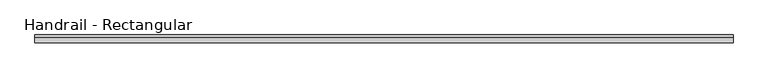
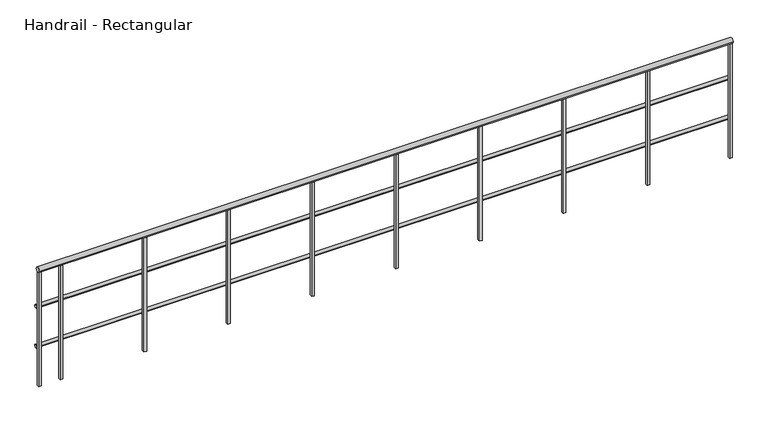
"""IFC4 building model written with IfcOpenShell, lengths in millimetres: railing geometry, Handrail - Rectangular."""

from ifc_helpers import new_model, si_unit, point, frame, frame_2d, origin, place, context, project, spatial, polyline, circle_curve, trimmed, segment, composite_curve, outline, extrude, source, transform, mapped, element, save


def handrail_rectangular_566bf06c(model_context):
    return source(origin(), model_context, "Body", "SweptSolid", [
        extrude(outline(composite_curve([segment(trimmed(circle_curve(frame_2d((11970.2316867, 9740.9)), 12.7), [point((11982.9316867, 9740.9))], [point((11957.5316867, 9740.9))], False, "CARTESIAN"), True, "CONTINUOUS"), segment(trimmed(circle_curve(frame_2d((11970.2316867, 9740.9)), 12.7), [point((11957.5316867, 9740.9))], [point((11982.9316867, 9740.9))], False, "CARTESIAN"), True, "CONTINUOUS")], self_intersect=False)), frame((-23747.3839563, 0.0, 0.0), z_axis=(1.0, 0.0, 0.0), x_axis=(0.0, 1.0, 0.0)), (0.0, 0.0, 1.0), 5041.9),
        extrude(outline(composite_curve([segment(trimmed(circle_curve(frame_2d((11970.2316867, 9436.1)), 12.7), [point((11982.9316867, 9436.1))], [point((11957.5316867, 9436.1))], False, "CARTESIAN"), True, "CONTINUOUS"), segment(trimmed(circle_curve(frame_2d((11970.2316867, 9436.1)), 12.7), [point((11957.5316867, 9436.1))], [point((11982.9316867, 9436.1))], False, "CARTESIAN"), True, "CONTINUOUS")], self_intersect=False)), frame((-23747.3839563, 0.0, 0.0), z_axis=(1.0, 0.0, 0.0), x_axis=(0.0, 1.0, 0.0)), (0.0, 0.0, 1.0), 5041.9),
        extrude(outline(composite_curve([segment(trimmed(circle_curve(frame_2d((11944.8316867, 10039.35)), 19.05), [point((11963.8816867, 10039.35))], [point((11925.7816867, 10039.35))], False, "CARTESIAN"), True, "CONTINUOUS"), segment(trimmed(circle_curve(frame_2d((11944.8316867, 10039.35)), 19.05), [point((11925.7816867, 10039.35))], [point((11963.8816867, 10039.35))], False, "CARTESIAN"), True, "CONTINUOUS")], self_intersect=False)), frame((-23747.3839563, 0.0, 0.0), z_axis=(1.0, 0.0, 0.0), x_axis=(0.0, 1.0, 0.0)), (0.0, 0.0, 1.0), 5041.9),
        extrude(outline(polyline([(-23572.7589563, 11935.3066867), (-23591.8089563, 11935.3066867), (-23591.8089563, 11954.3566867), (-23572.7589563, 11954.3566867), (-23572.7589563, 11935.3066867)])), frame((0.0, 0.0, 9144.0), z_axis=(0.0, 0.0, 1.0), x_axis=(1.0, 0.0, 0.0)), (0.0, 0.0, 1.0), 876.3),
        extrude(outline(polyline([(-22963.1589563, 11935.3066867), (-22982.2089563, 11935.3066867), (-22982.2089563, 11954.3566867), (-22963.1589563, 11954.3566867), (-22963.1589563, 11935.3066867)])), frame((0.0, 0.0, 9144.0), z_axis=(0.0, 0.0, 1.0), x_axis=(1.0, 0.0, 0.0)), (0.0, 0.0, 1.0), 876.3),
        extrude(outline(polyline([(-22353.5589563, 11935.3066867), (-22372.6089563, 11935.3066867), (-22372.6089563, 11954.3566867), (-22353.5589563, 11954.3566867), (-22353.5589563, 11935.3066867)])), frame((0.0, 0.0, 9144.0), z_axis=(0.0, 0.0, 1.0), x_axis=(1.0, 0.0, 0.0)), (0.0, 0.0, 1.0), 876.3),
        extrude(outline(polyline([(-21743.9589563, 11935.3066867), (-21763.0089563, 11935.3066867), (-21763.0089563, 11954.3566867), (-21743.9589563, 11954.3566867), (-21743.9589563, 11935.3066867)])), frame((0.0, 0.0, 9144.0), z_axis=(0.0, 0.0, 1.0), x_axis=(1.0, 0.0, 0.0)), (0.0, 0.0, 1.0), 876.3),
        extrude(outline(polyline([(-21134.3589563, 11935.3066867), (-21153.4089563, 11935.3066867), (-21153.4089563, 11954.3566867), (-21134.3589563, 11954.3566867), (-21134.3589563, 11935.3066867)])), frame((0.0, 0.0, 9144.0), z_axis=(0.0, 0.0, 1.0), x_axis=(1.0, 0.0, 0.0)), (0.0, 0.0, 1.0), 876.3),
        extrude(outline(polyline([(-20524.7589563, 11935.3066867), (-20543.8089563, 11935.3066867), (-20543.8089563, 11954.3566867), (-20524.7589563, 11954.3566867), (-20524.7589563, 11935.3066867)])), frame((0.0, 0.0, 9144.0), z_axis=(0.0, 0.0, 1.0), x_axis=(1.0, 0.0, 0.0)), (0.0, 0.0, 1.0), 876.3),
        extrude(outline(polyline([(-19915.1589563, 11935.3066867), (-19934.2089563, 11935.3066867), (-19934.2089563, 11954.3566867), (-19915.1589563, 11954.3566867), (-19915.1589563, 11935.3066867)])), frame((0.0, 0.0, 9144.0), z_axis=(0.0, 0.0, 1.0), x_axis=(1.0, 0.0, 0.0)), (0.0, 0.0, 1.0), 876.3),
        extrude(outline(polyline([(-19305.5589563, 11935.3066867), (-19324.6089563, 11935.3066867), (-19324.6089563, 11954.3566867), (-19305.5589563, 11954.3566867), (-19305.5589563, 11935.3066867)])), frame((0.0, 0.0, 9144.0), z_axis=(0.0, 0.0, 1.0), x_axis=(1.0, 0.0, 0.0)), (0.0, 0.0, 1.0), 876.3),
        extrude(outline(polyline([(-23728.3339563, 11935.3066867), (-23747.3839563, 11935.3066867), (-23747.3839563, 11954.3566867), (-23728.3339563, 11954.3566867), (-23728.3339563, 11935.3066867)])), frame((0.0, 0.0, 9144.0), z_axis=(0.0, 0.0, 1.0), x_axis=(1.0, 0.0, 0.0)), (0.0, 0.0, 1.0), 876.3),
        extrude(outline(polyline([(-18705.4839563, 11935.3066867), (-18724.5339563, 11935.3066867), (-18724.5339563, 11954.3566867), (-18705.4839563, 11954.3566867), (-18705.4839563, 11935.3066867)])), frame((0.0, 0.0, 9144.0), z_axis=(0.0, 0.0, 1.0), x_axis=(1.0, 0.0, 0.0)), (0.0, 0.0, 1.0), 876.3),
    ])


if __name__ == "__main__":
    model = new_model("IFC4")
    model_context = context("Model", 3, world=origin())
    ifc_project = project(units=[si_unit("LENGTHUNIT", "METRE", prefix="MILLI")], contexts=[model_context])
    site = spatial("IfcSite", under=ifc_project)
    building = spatial("IfcBuilding", under=site)
    placement = place(None, origin())
    handrail_rectangular_shape = handrail_rectangular_566bf06c(model_context)
    element("IfcRailing", 1, ObjectType="Handrail - Rectangular", at=placement, inside=building, context=model_context, shape_type="MappedRepresentation", body=[
        mapped(handrail_rectangular_shape, transform((0.0, 0.0, 0.0), x_axis=(1.0, 0.0, 0.0), y_axis=(0.0, 1.0, 0.0), z_axis=(0.0, 0.0, 1.0))),
    ])
    save(model, "model.ifc")
